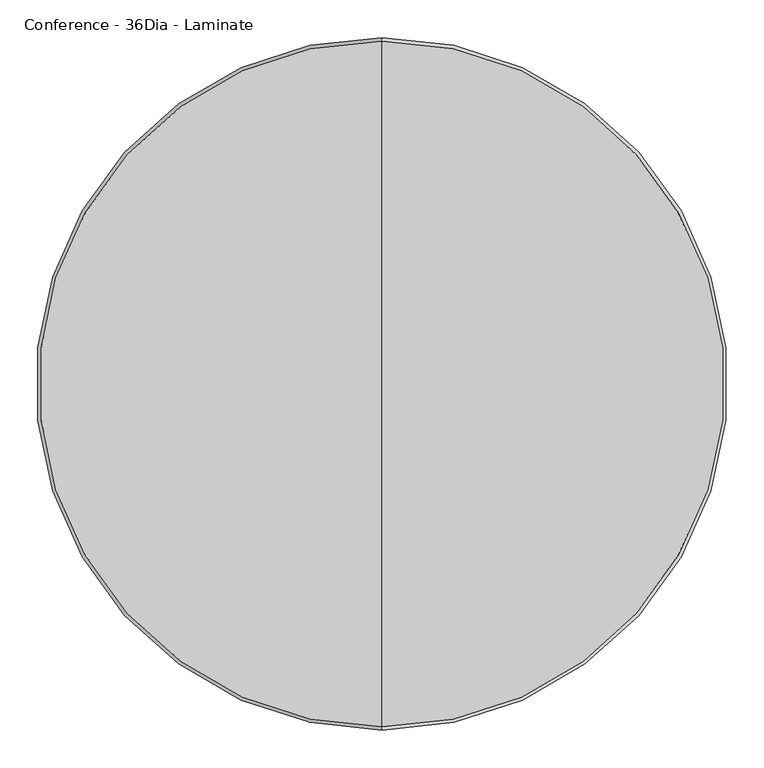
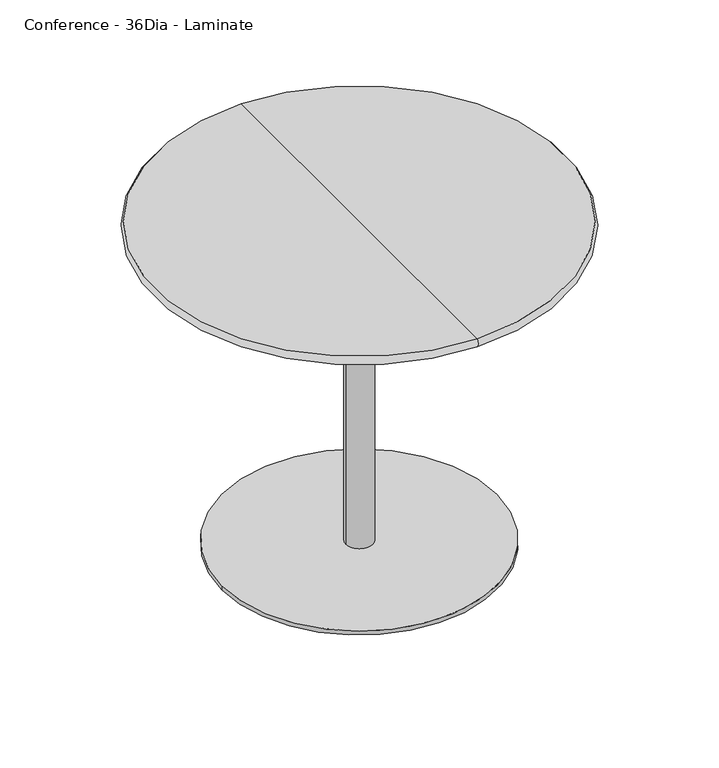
"""IFC4 building model written with IfcOpenShell, lengths in millimetres: furniture geometry, Steelcase Coalesse - Enea - Table - Single Base : Conference - 36Dia - Laminate."""

from ifc_helpers import new_model, si_unit, point, frame, frame_2d, origin, origin_with_axes, place, context, project, spatial, circle_curve, ellipse_curve, trimmed, segment, composite_curve, outline, extrude, source, transform, mapped, element, save
from ifc_brep_helpers import plane_surface, revolved_surface, advanced_brep


def conference_36dia_laminate_163eab1d(model_context):
    return source(origin(), model_context, "Body", "SolidModel", [
        extrude(outline(composite_curve([segment(trimmed(circle_curve(frame_2d((537.718, -284.0746893)), 25.4), [point((512.318, -284.0746893))], [point((563.118, -284.0746893))], False, "CARTESIAN"), True, "CONTINUOUS"), segment(trimmed(circle_curve(frame_2d((537.718, -284.0746893)), 25.4), [point((563.118, -284.0746893))], [point((512.318, -284.0746893))], False, "CARTESIAN"), True, "CONTINUOUS")], self_intersect=False)), origin_with_axes(), (0.0, 0.0, 1.0), 6.35),
        extrude(outline(composite_curve([segment(trimmed(circle_curve(frame_2d((791.3613107, -537.3772238)), 25.4), [point((765.9613107, -537.3772238))], [point((816.7613107, -537.3772238))], False, "CARTESIAN"), True, "CONTINUOUS"), segment(trimmed(circle_curve(frame_2d((791.3613107, -537.3772238)), 25.4), [point((816.7613107, -537.3772238))], [point((765.9613107, -537.3772238))], False, "CARTESIAN"), True, "CONTINUOUS")], self_intersect=False)), origin_with_axes(), (0.0, 0.0, 1.0), 6.35),
        extrude(outline(composite_curve([segment(trimmed(circle_curve(frame_2d((284.0746893, -537.3772238)), 25.4), [point((258.6746893, -537.3772238))], [point((309.4746893, -537.3772238))], False, "CARTESIAN"), True, "CONTINUOUS"), segment(trimmed(circle_curve(frame_2d((284.0746893, -537.3772238)), 25.4), [point((309.4746893, -537.3772238))], [point((258.6746893, -537.3772238))], False, "CARTESIAN"), True, "CONTINUOUS")], self_intersect=False)), origin_with_axes(), (0.0, 0.0, 1.0), 6.35),
        extrude(outline(composite_curve([segment(trimmed(circle_curve(frame_2d((537.718, -790.6797584)), 25.4), [point((512.318, -790.6797584))], [point((563.118, -790.6797584))], False, "CARTESIAN"), True, "CONTINUOUS"), segment(trimmed(circle_curve(frame_2d((537.718, -790.6797584)), 25.4), [point((563.118, -790.6797584))], [point((512.318, -790.6797584))], False, "CARTESIAN"), True, "CONTINUOUS")], self_intersect=False)), origin_with_axes(), (0.0, 0.0, 1.0), 6.35),
        advanced_brep(
        [(537.718, -990.6075871, 762.0), (537.718, -84.8284129, 762.0), (537.718, -537.718, 762.0), (537.718, -990.6075871, 742.95), (537.718, -84.8284129, 742.95), (537.718, -537.718, 742.95)],
        [
            (0, 1, circle_curve(frame((537.718, -537.718, 762.0), z_axis=(0.0, 0.0, 1.0), x_axis=(0.0, 1.0, 0.0)), 452.8895871)),
            (1, 2),
            (2, 0),
            (1, 0, circle_curve(frame((537.718, -537.718, 762.0), z_axis=(0.0, 0.0, 1.0), x_axis=(0.0, 1.0, 0.0)), 452.8895871)),
            (3, 4, circle_curve(frame((537.718, -537.718, 742.95), z_axis=(0.0, 0.0, 1.0), x_axis=(0.0, 1.0, 0.0)), 452.8895871)),
            (4, 1, circle_curve(frame((537.718, -93.1968446, 752.475), z_axis=(1.0, 0.0, 0.0), x_axis=(0.0, -1.0, 0.0)), 12.6789697)),
            (0, 3, circle_curve(frame((537.718, -982.2391554, 752.475), z_axis=(1.0, 0.0, 0.0), x_axis=(0.0, 1.0, 0.0)), 12.6789697)),
            (4, 3, circle_curve(frame((537.718, -537.718, 742.95), z_axis=(0.0, 0.0, 1.0), x_axis=(0.0, 1.0, 0.0)), 452.8895871)),
            (5, 4),
            (3, 5),
        ],
        [
            plane_surface(frame((537.718, -537.718, 762.0), z_axis=(0.0, 0.0, 1.0), x_axis=(0.0, 1.0, 0.0))),
            revolved_surface(trimmed(ellipse_curve(frame((537.718, -93.1968446, 752.475), z_axis=(-1.0, 0.0, 0.0), x_axis=(0.0, -1.0, 0.0)), 12.6789697, 12.6789697), [point((537.718, -84.8284129, 762.0))], [point((537.718, -84.8284129, 742.95))], True, "CARTESIAN"), (537.718, -537.718, 803.5678651), (0.0, 0.0, -1.0)),
            plane_surface(frame((537.718, -537.718, 742.95), z_axis=(0.0, 0.0, -1.0), x_axis=(0.0, 1.0, 0.0))),
        ],
        [
            (0, [[1, 2, 3]]),
            (0, [[4, -3, -2]]),
            (1, [[5, 6, -1, 7]]),
            (1, [[8, -7, -4, -6]]),
            (2, [[9, -5, 10]]),
            (2, [[-10, -8, -9]]),
        ],
    ),
        extrude(outline(composite_curve([segment(trimmed(circle_curve(frame_2d((537.718, -537.718)), 304.8), [point((842.518, -537.718))], [point((232.918, -537.718))], False, "CARTESIAN"), True, "CONTINUOUS"), segment(trimmed(circle_curve(frame_2d((537.718, -537.718)), 304.8), [point((232.918, -537.718))], [point((842.518, -537.718))], False, "CARTESIAN"), True, "CONTINUOUS")], self_intersect=False)), frame((0.0, 0.0, 6.35), z_axis=(0.0, 0.0, 1.0), x_axis=(1.0, 0.0, 0.0)), (0.0, 0.0, 1.0), 9.525),
        extrude(outline(composite_curve([segment(trimmed(circle_curve(frame_2d((537.7182907, -537.7179273)), 30.0214725), [point((567.7397632, -537.7179273))], [point((507.6968182, -537.7179273))], False, "CARTESIAN"), True, "CONTINUOUS"), segment(trimmed(circle_curve(frame_2d((537.7182907, -537.7179273)), 30.0214725), [point((507.6968182, -537.7179273))], [point((567.7397632, -537.7179273))], False, "CARTESIAN"), True, "CONTINUOUS")], self_intersect=False)), frame((0.0, 0.0, 15.875), z_axis=(0.0, 0.0, 1.0), x_axis=(1.0, 0.0, 0.0)), (0.0, 0.0, 1.0), 727.075),
    ])


if __name__ == "__main__":
    model = new_model("IFC4")
    model_context = context("Model", 3, world=origin())
    ifc_project = project(units=[si_unit("LENGTHUNIT", "METRE", prefix="MILLI")], contexts=[model_context])
    site = spatial("IfcSite", under=ifc_project)
    building = spatial("IfcBuilding", under=site)
    placement = place(None, origin())
    conference_36dia_laminate_shape = conference_36dia_laminate_163eab1d(model_context)
    element("IfcFurniture", 1, ObjectType="Steelcase Coalesse - Enea - Table - Single Base : Conference - 36Dia - Laminate", at=placement, inside=building, context=model_context, shape_type="MappedRepresentation", body=[
        mapped(conference_36dia_laminate_shape, transform((0.0, 0.0, 0.0), x_axis=(1.0, 0.0, 0.0), y_axis=(0.0, 1.0, 0.0), z_axis=(0.0, 0.0, 1.0))),
    ])
    save(model, "model.ifc")
